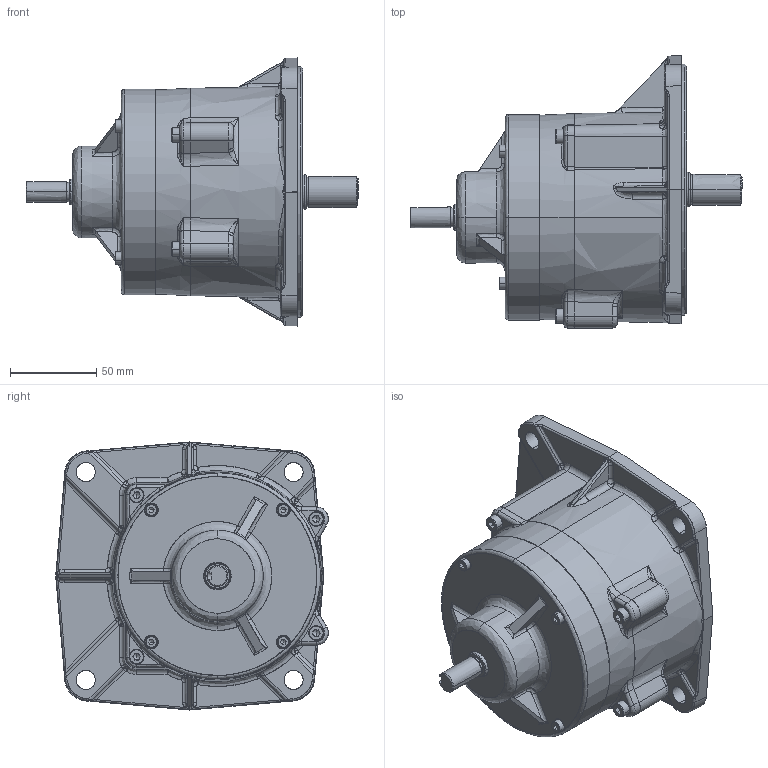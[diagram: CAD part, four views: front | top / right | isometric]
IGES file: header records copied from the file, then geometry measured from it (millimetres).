
Start section: SolidWorks IGES file using analytic representation for surfaces
Bounding box: 192 x 157.66 x 155 mm (x, y, z)
Surface area: 200461.4 mm2 (no closed solid volume)
Topology: 0 solids, 0 shells, 860 faces, 11649 edges, 11605 vertices
Faces by surface type: bspline 502, revolution 358
